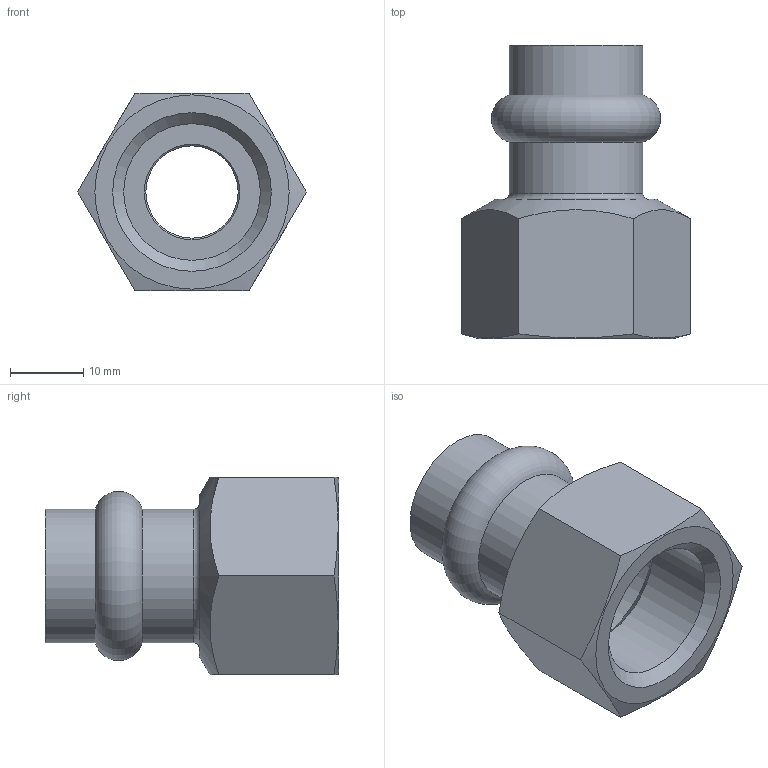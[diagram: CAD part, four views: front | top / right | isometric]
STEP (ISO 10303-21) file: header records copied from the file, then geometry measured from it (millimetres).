
FILE_DESCRIPTION(/* description */ (''),/* implementation_level */ '2;1');
FILE_NAME(/* name */ 'C:\Users\Vault\Desktop\Articoli_INOXPRES UNIKO\190_INOXPRES_UNIKO\190102015U_Inoxpres_Uniko.stp',/* time_stamp */ '2022-10-06T11:31:52+02:00',/* author */ ('Vault'),/* organization */ ('Raccorderie metalliche s.p.a. '),/* preprocessor_version */ 'ST-DEVELOPER v18.1',/* originating_system */ 'Autodesk Inventor 2020',/* authorisation */ 'Raccorderie metalliche s.p.a. ');
FILE_SCHEMA (('AUTOMOTIVE_DESIGN { 1 0 10303 214 3 1 1 }'));
Length unit declared in the file: millimetre
Products named in the file (1): 190102015V_Inoxpres_Uniko
Bounding box: 31.18 x 40 x 27 mm (x, y, z)
Volume: 8915.8 mm3; surface area: 6206.2 mm2
Topology: 1 solids, 1 shells, 30 faces, 80 edges, 55 vertices
Faces by surface type: plane 11, cone 8, cylinder 7, torus 4
Full cylindrical faces by diameter (mm): 12.6 x1, 15.2 x2, 18.2 x2, 18.64 x1, 21.5 x1
Entity records: 1000 total; most frequent: CARTESIAN_POINT 194, DIRECTION 173, ORIENTED_EDGE 160, EDGE_CURVE 80, AXIS2_PLACEMENT_3D 76, VERTEX_POINT 55, CIRCLE 45, EDGE_LOOP 35
